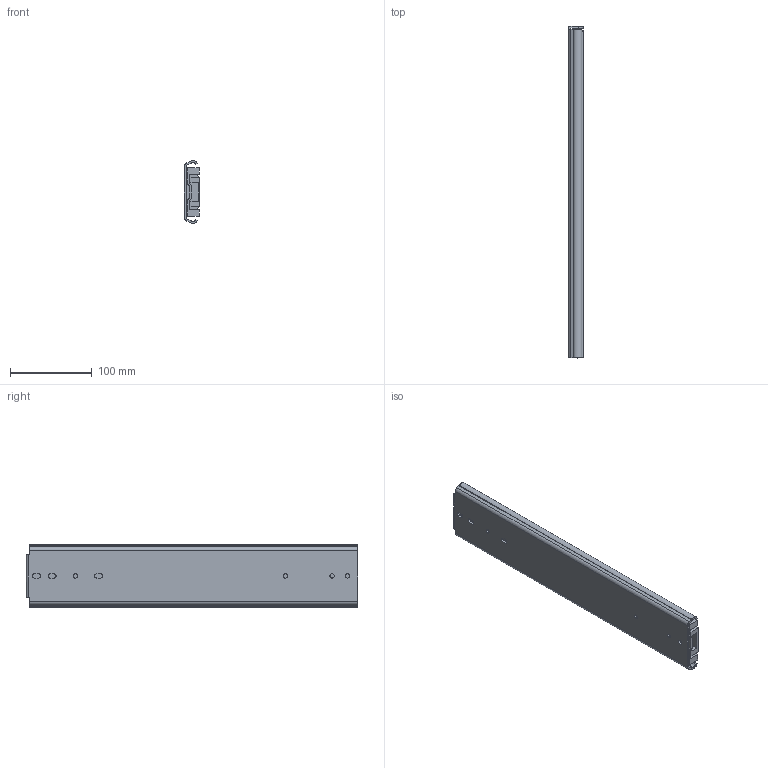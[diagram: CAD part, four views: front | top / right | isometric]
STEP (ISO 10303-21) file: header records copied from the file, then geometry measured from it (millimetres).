
FILE_DESCRIPTION(/* description */ ('Unknown'),/* implementation_level */ '2;1');
FILE_NAME(/* name */ '76J01-16 close',/* time_stamp */ '2024-07-26T15:27:56+08:00',/* author */ ('Unknown'),/* organization */ ('Unknown'),/* preprocessor_version */ 'ST-DEVELOPER v18.104',/* originating_system */ 'Solid Edge',/* authorisation */ 'Unknown');
FILE_SCHEMA (('AUTOMOTIVE_DESIGN {1 0 10303 214 3 1 1}'));
Length unit declared in the file: millimetre
Products named in the file (4): 76J01-16 close; 76J01 16 inch 內 ; 76J01 16 ¦Tose; 76J01 16 吋
Assembly tree (3 placements, depth 2):
  76J01-16 close
    76J01 16 inch 內 
    76J01 16 ¦Tose
    76J01 16 吋
Bounding box: 19.3 x 406.4 x 76.76 mm (x, y, z)
Volume: 316294.6 mm3; surface area: 198252 mm2
Topology: 3 solids, 3 shells, 163 faces, 491 edges, 330 vertices
Faces by surface type: plane 92, cylinder 71
Full cylindrical faces by diameter (mm): 5.2 x8
Entity records: 5969 total; most frequent: CARTESIAN_POINT 967, DIRECTION 951, ORIENTED_EDGE 950, EDGE_CURVE 475, LINE 331, VECTOR 331, VERTEX_POINT 322, AXIS2_PLACEMENT_3D 310
